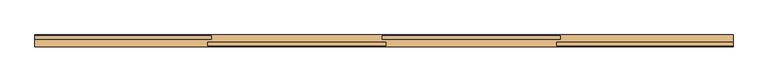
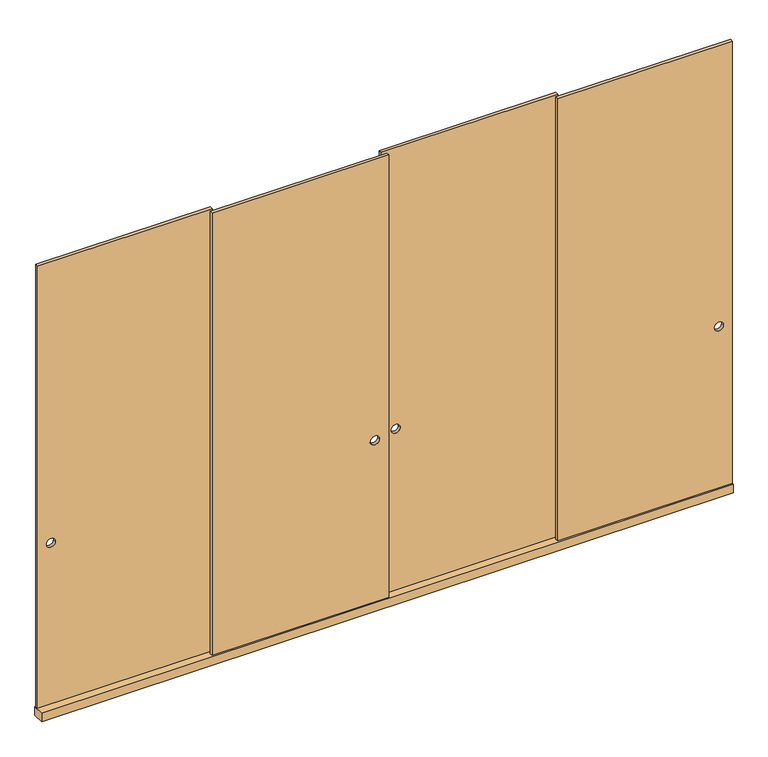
"""IFC4 building model written with IfcOpenShell, lengths in millimetres: door geometry, C5 Puerta corrediza placar 4 hojas : C5 PUERTA CORREDIZA PLACAR 4 HOJAS 384x260."""

from ifc_helpers import new_model, si_unit, point, frame, frame_2d, origin, origin_with_axes, place, context, project, spatial, polyline, circle_curve, trimmed, segment, composite_curve, outline, extrude, source, transform, mapped, element, save


def door_3974ce79(model_context):
    return source(origin(), model_context, "Body", "SweptSolid", [
        extrude(outline(polyline([(1920.0, -32.5), (-1920.0, -32.5), (-1920.0, 32.5), (1920.0, 32.5), (1920.0, -32.5)])), origin_with_axes(), (0.0, 0.0, 1.0), 50.0),
        extrude(outline(polyline([(2650.0, 950.0), (54.0, 950.0), (54.0, 1920.0), (2650.0, 1920.0), (2650.0, 950.0)]), holes=[composite_curve([segment(trimmed(circle_curve(frame_2d((1000.0, 1845.0)), 25.0), [point((1000.0, 1820.0))], [point((1000.0, 1870.0))], True, "CARTESIAN"), True, "CONTINUOUS"), segment(trimmed(circle_curve(frame_2d((1000.0, 1845.0)), 25.0), [point((1000.0, 1870.0))], [point((1000.0, 1820.0))], True, "CARTESIAN"), True, "CONTINUOUS")], self_intersect=False)]), frame((0.0, -26.5, 0.0), z_axis=(0.0, 1.0, 0.0), x_axis=(0.0, 0.0, 1.0)), (0.0, 0.0, 1.0), 18.0),
        extrude(outline(polyline([(2650.0, 970.0), (2650.0, -10.0), (54.0, -10.0), (54.0, 970.0), (2650.0, 970.0)]), holes=[composite_curve([segment(trimmed(circle_curve(frame_2d((1000.0, 70.0)), 25.0), [point((1000.0, 45.0))], [point((1000.0, 95.0))], True, "CARTESIAN"), True, "CONTINUOUS"), segment(trimmed(circle_curve(frame_2d((1000.0, 70.0)), 25.0), [point((1000.0, 95.0))], [point((1000.0, 45.0))], True, "CARTESIAN"), True, "CONTINUOUS")], self_intersect=False)]), frame((0.0, 8.5, 0.0), z_axis=(0.0, 1.0, 0.0), x_axis=(0.0, 0.0, 1.0)), (0.0, 0.0, 1.0), 18.0),
        extrude(outline(polyline([(2650.0, -970.0), (54.0, -970.0), (54.0, 10.0), (2650.0, 10.0), (2650.0, -970.0)]), holes=[composite_curve([segment(trimmed(circle_curve(frame_2d((1000.0, -65.0)), 25.0), [point((1000.0, -90.0))], [point((1000.0, -40.0))], True, "CARTESIAN"), True, "CONTINUOUS"), segment(trimmed(circle_curve(frame_2d((1000.0, -65.0)), 25.0), [point((1000.0, -40.0))], [point((1000.0, -90.0))], True, "CARTESIAN"), True, "CONTINUOUS")], self_intersect=False)]), frame((0.0, -26.5, 0.0), z_axis=(0.0, 1.0, 0.0), x_axis=(0.0, 0.0, 1.0)), (0.0, 0.0, 1.0), 18.0),
        extrude(outline(polyline([(2650.0, -950.0), (2650.0, -1920.0), (54.0, -1920.0), (54.0, -950.0), (2650.0, -950.0)]), holes=[composite_curve([segment(trimmed(circle_curve(frame_2d((1000.0, -1845.0)), 25.0), [point((1000.0, -1870.0))], [point((1000.0, -1820.0))], True, "CARTESIAN"), True, "CONTINUOUS"), segment(trimmed(circle_curve(frame_2d((1000.0, -1845.0)), 25.0), [point((1000.0, -1820.0))], [point((1000.0, -1870.0))], True, "CARTESIAN"), True, "CONTINUOUS")], self_intersect=False)]), frame((0.0, 8.5, 0.0), z_axis=(0.0, 1.0, 0.0), x_axis=(0.0, 0.0, 1.0)), (0.0, 0.0, 1.0), 18.0),
    ])


if __name__ == "__main__":
    model = new_model("IFC4")
    model_context = context("Model", 3, world=origin())
    ifc_project = project(units=[si_unit("LENGTHUNIT", "METRE", prefix="MILLI")], contexts=[model_context])
    site = spatial("IfcSite", under=ifc_project)
    building = spatial("IfcBuilding", under=site)
    placement = place(None, origin())
    door_shape = door_3974ce79(model_context)
    element("IfcDoor", 1, ObjectType="C5 Puerta corrediza placar 4 hojas : C5 PUERTA CORREDIZA PLACAR 4 HOJAS 384x260", at=placement, inside=building, context=model_context, shape_type="MappedRepresentation", body=[
        mapped(door_shape, transform((0.0, 0.0, 0.0), x_axis=(1.0, 0.0, 0.0), y_axis=(0.0, 1.0, 0.0), z_axis=(0.0, 0.0, 1.0))),
    ])
    save(model, "model.ifc")
